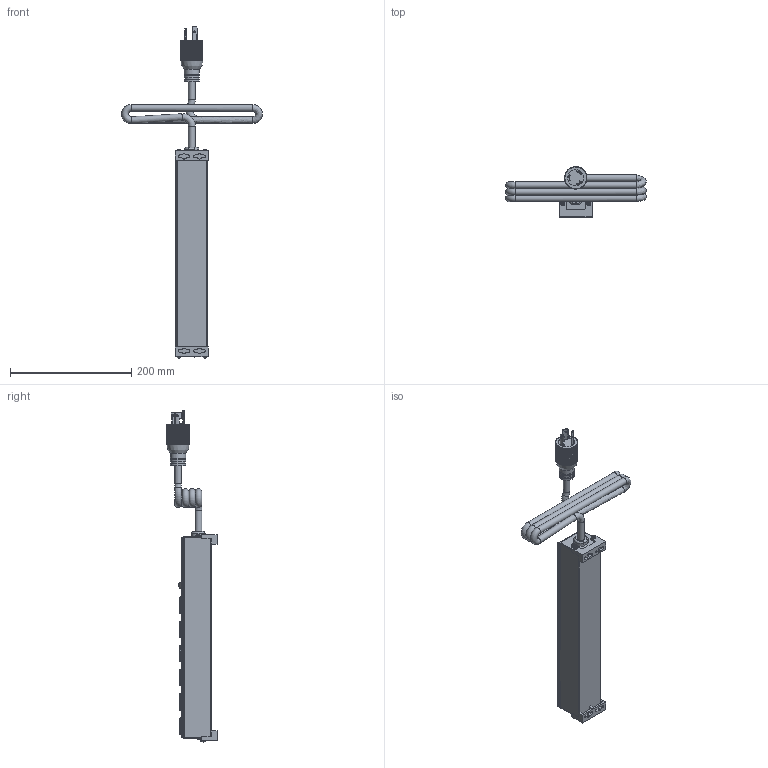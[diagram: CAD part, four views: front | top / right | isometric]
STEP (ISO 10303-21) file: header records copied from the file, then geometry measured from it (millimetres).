
FILE_DESCRIPTION((''),'2;1');
FILE_NAME('E:\Dutton\Manufacturing\drawings\Updated 2009\POWER BARS\1589 series\STEP''s\1589H6C1.stp','2009-12-29T08:51:07',('tfoster'),(''),'Autodesk Inventor 2010','Autodesk Inventor 2010','');
FILE_SCHEMA(('AUTOMOTIVE_DESIGN { 1 0 10303 214 1 1 1 1 }'));
Products named in the file (13): 1589H6C1; 5,6 Outlet extrusion; 6 outlet; #6x0.5 type A; Reset Switch; round head 1-way 8-32 x 0.5 screw; toothwasher; 20 amp Twist Cored; Power Switch Assembly; Power Switch; Power Switch pt; 20 Amp Receptacle; Mounting Bracket
Assembly tree (21 placements, depth 3):
  1589H6C1
    5,6 Outlet extrusion
    6 outlet
    #6x0.5 type A  x4
    Reset Switch
    round head 1-way 8-32 x 0.5 screw
    toothwasher
    20 amp Twist Cored
    Power Switch Assembly
      Power Switch
      Power Switch pt
    20 Amp Receptacle  x6
    Mounting Bracket  x2
Bounding box: 232.04 x 82.59 x 547.3 mm (x, y, z)
Volume: 416995.1 mm3; surface area: 261609.2 mm2
Topology: 20 solids, 20 shells, 1266 faces, 3708 edges, 2486 vertices
Faces by surface type: plane 833, cylinder 252, bspline 99, cone 37, sphere 29, torus 16
Full cylindrical faces by diameter (mm): 1 x2, 1.803 x3, 1.905 x2, 2.794 x3, 4.3 x1, 4.648 x5, 7.849 x1, 11 x4, 12.5 x1, 22.606 x2, 25.146 x3, 26.67 x1
Entity records: 30352 total; most frequent: CARTESIAN_POINT 9061, ORIENTED_EDGE 4564, DIRECTION 4054, EDGE_CURVE 2282, VERTEX_POINT 1559, VECTOR 1438, LINE 1438, AXIS2_PLACEMENT_3D 1308
